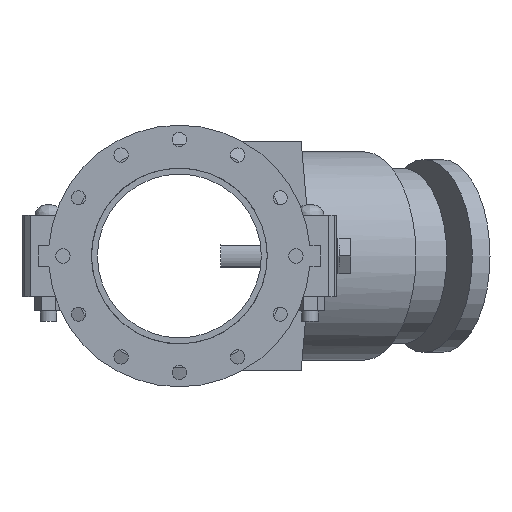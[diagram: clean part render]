
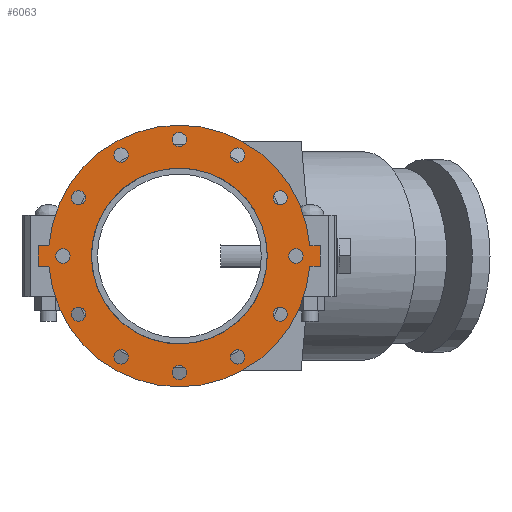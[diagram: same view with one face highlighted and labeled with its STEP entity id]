
A CAD part, front view. The second image highlights one B-rep face of the part: STEP entity #6063.
In plain terms, the highlighted planar face has unit normal (0, -1, 0) as drawn and (0, 0, 1) by its records, which use the part's own axes.
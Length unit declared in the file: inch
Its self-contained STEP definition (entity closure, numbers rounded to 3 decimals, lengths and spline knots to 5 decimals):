
#161=FACE_BOUND('',#812,.T.);
#162=FACE_BOUND('',#813,.T.);
#163=FACE_BOUND('',#814,.T.);
#164=FACE_BOUND('',#815,.T.);
#165=FACE_BOUND('',#816,.T.);
#166=FACE_BOUND('',#817,.T.);
#167=FACE_BOUND('',#818,.T.);
#168=FACE_BOUND('',#819,.T.);
#169=FACE_BOUND('',#820,.T.);
#170=FACE_BOUND('',#821,.T.);
#171=FACE_BOUND('',#822,.T.);
#172=FACE_BOUND('',#823,.T.);
#173=FACE_BOUND('',#824,.T.);
#246=PLANE('',#6641);
#462=FACE_OUTER_BOUND('',#811,.T.);
#811=EDGE_LOOP('',(#3991,#3992,#3993,#3994,#3995,#3996,#3997,#3998));
#812=EDGE_LOOP('',(#3999));
#813=EDGE_LOOP('',(#4000));
#814=EDGE_LOOP('',(#4001));
#815=EDGE_LOOP('',(#4002));
#816=EDGE_LOOP('',(#4003));
#817=EDGE_LOOP('',(#4004));
#818=EDGE_LOOP('',(#4005));
#819=EDGE_LOOP('',(#4006));
#820=EDGE_LOOP('',(#4007));
#821=EDGE_LOOP('',(#4008));
#822=EDGE_LOOP('',(#4009));
#823=EDGE_LOOP('',(#4010));
#824=EDGE_LOOP('',(#4011,#4012));
#1227=LINE('',#9326,#1671);
#1228=LINE('',#9329,#1672);
#1231=LINE('',#9334,#1675);
#1232=LINE('',#9337,#1676);
#1234=LINE('',#9340,#1678);
#1235=LINE('',#9342,#1679);
#1671=VECTOR('',#7438,0.3937);
#1672=VECTOR('',#7441,0.3937);
#1675=VECTOR('',#7446,0.3937);
#1676=VECTOR('',#7449,0.3937);
#1678=VECTOR('',#7453,0.3937);
#1679=VECTOR('',#7456,0.3937);
#2091=CIRCLE('',#6588,0.4375);
#2093=CIRCLE('',#6591,0.4375);
#2095=CIRCLE('',#6594,0.4375);
#2097=CIRCLE('',#6597,0.4375);
#2099=CIRCLE('',#6600,0.4375);
#2101=CIRCLE('',#6603,0.4375);
#2103=CIRCLE('',#6606,0.4375);
#2105=CIRCLE('',#6609,0.4375);
#2107=CIRCLE('',#6612,0.4375);
#2109=CIRCLE('',#6615,0.4375);
#2111=CIRCLE('',#6618,0.4375);
#2113=CIRCLE('',#6621,0.4375);
#2119=CIRCLE('',#6629,8.);
#2120=CIRCLE('',#6631,5.375);
#2121=CIRCLE('',#6632,5.375);
#2122=CIRCLE('',#6634,8.);
#2448=VERTEX_POINT('',#9213);
#2450=VERTEX_POINT('',#9219);
#2452=VERTEX_POINT('',#9225);
#2454=VERTEX_POINT('',#9231);
#2456=VERTEX_POINT('',#9237);
#2458=VERTEX_POINT('',#9243);
#2460=VERTEX_POINT('',#9249);
#2462=VERTEX_POINT('',#9255);
#2464=VERTEX_POINT('',#9261);
#2466=VERTEX_POINT('',#9267);
#2468=VERTEX_POINT('',#9273);
#2470=VERTEX_POINT('',#9279);
#2482=VERTEX_POINT('',#9306);
#2483=VERTEX_POINT('',#9308);
#2484=VERTEX_POINT('',#9312);
#2485=VERTEX_POINT('',#9314);
#2486=VERTEX_POINT('',#9318);
#2487=VERTEX_POINT('',#9320);
#2488=VERTEX_POINT('',#9324);
#2489=VERTEX_POINT('',#9328);
#2490=VERTEX_POINT('',#9332);
#2491=VERTEX_POINT('',#9336);
#3033=EDGE_CURVE('',#2448,#2448,#2091,.T.);
#3036=EDGE_CURVE('',#2450,#2450,#2093,.T.);
#3039=EDGE_CURVE('',#2452,#2452,#2095,.T.);
#3042=EDGE_CURVE('',#2454,#2454,#2097,.T.);
#3045=EDGE_CURVE('',#2456,#2456,#2099,.T.);
#3048=EDGE_CURVE('',#2458,#2458,#2101,.T.);
#3051=EDGE_CURVE('',#2460,#2460,#2103,.T.);
#3054=EDGE_CURVE('',#2462,#2462,#2105,.T.);
#3057=EDGE_CURVE('',#2464,#2464,#2107,.T.);
#3060=EDGE_CURVE('',#2466,#2466,#2109,.T.);
#3063=EDGE_CURVE('',#2468,#2468,#2111,.T.);
#3066=EDGE_CURVE('',#2470,#2470,#2113,.T.);
#3081=EDGE_CURVE('',#2482,#2483,#2119,.T.);
#3083=EDGE_CURVE('',#2485,#2484,#2120,.T.);
#3084=EDGE_CURVE('',#2484,#2485,#2121,.T.);
#3086=EDGE_CURVE('',#2487,#2486,#2122,.T.);
#3089=EDGE_CURVE('',#2483,#2488,#1227,.T.);
#3090=EDGE_CURVE('',#2489,#2487,#1228,.T.);
#3093=EDGE_CURVE('',#2486,#2490,#1231,.T.);
#3094=EDGE_CURVE('',#2491,#2482,#1232,.T.);
#3096=EDGE_CURVE('',#2490,#2491,#1234,.T.);
#3097=EDGE_CURVE('',#2488,#2489,#1235,.T.);
#3991=ORIENTED_EDGE('',*,*,#3093,.T.);
#3992=ORIENTED_EDGE('',*,*,#3096,.T.);
#3993=ORIENTED_EDGE('',*,*,#3094,.T.);
#3994=ORIENTED_EDGE('',*,*,#3081,.T.);
#3995=ORIENTED_EDGE('',*,*,#3089,.T.);
#3996=ORIENTED_EDGE('',*,*,#3097,.T.);
#3997=ORIENTED_EDGE('',*,*,#3090,.T.);
#3998=ORIENTED_EDGE('',*,*,#3086,.T.);
#3999=ORIENTED_EDGE('',*,*,#3033,.T.);
#4000=ORIENTED_EDGE('',*,*,#3036,.T.);
#4001=ORIENTED_EDGE('',*,*,#3039,.T.);
#4002=ORIENTED_EDGE('',*,*,#3042,.T.);
#4003=ORIENTED_EDGE('',*,*,#3045,.T.);
#4004=ORIENTED_EDGE('',*,*,#3048,.T.);
#4005=ORIENTED_EDGE('',*,*,#3051,.T.);
#4006=ORIENTED_EDGE('',*,*,#3054,.T.);
#4007=ORIENTED_EDGE('',*,*,#3057,.T.);
#4008=ORIENTED_EDGE('',*,*,#3060,.T.);
#4009=ORIENTED_EDGE('',*,*,#3063,.T.);
#4010=ORIENTED_EDGE('',*,*,#3066,.T.);
#4011=ORIENTED_EDGE('',*,*,#3083,.T.);
#4012=ORIENTED_EDGE('',*,*,#3084,.T.);
#6063=ADVANCED_FACE('',(#462,#161,#162,#163,#164,#165,#166,#167,#168,#169,
#170,#171,#172,#173),#246,.T.);
#6588=AXIS2_PLACEMENT_3D('',#9214,#7318,#7319);
#6591=AXIS2_PLACEMENT_3D('',#9220,#7325,#7326);
#6594=AXIS2_PLACEMENT_3D('',#9226,#7332,#7333);
#6597=AXIS2_PLACEMENT_3D('',#9232,#7339,#7340);
#6600=AXIS2_PLACEMENT_3D('',#9238,#7346,#7347);
#6603=AXIS2_PLACEMENT_3D('',#9244,#7353,#7354);
#6606=AXIS2_PLACEMENT_3D('',#9250,#7360,#7361);
#6609=AXIS2_PLACEMENT_3D('',#9256,#7367,#7368);
#6612=AXIS2_PLACEMENT_3D('',#9262,#7374,#7375);
#6615=AXIS2_PLACEMENT_3D('',#9268,#7381,#7382);
#6618=AXIS2_PLACEMENT_3D('',#9274,#7388,#7389);
#6621=AXIS2_PLACEMENT_3D('',#9280,#7395,#7396);
#6629=AXIS2_PLACEMENT_3D('',#9310,#7420,#7421);
#6631=AXIS2_PLACEMENT_3D('',#9315,#7425,#7426);
#6632=AXIS2_PLACEMENT_3D('',#9316,#7427,#7428);
#6634=AXIS2_PLACEMENT_3D('',#9321,#7432,#7433);
#6641=AXIS2_PLACEMENT_3D('',#9343,#7457,#7458);
#7318=DIRECTION('center_axis',(0.,0.,-1.));
#7319=DIRECTION('ref_axis',(-0.866,0.5,0.));
#7325=DIRECTION('center_axis',(0.,0.,-1.));
#7326=DIRECTION('ref_axis',(-0.5,0.866,0.));
#7332=DIRECTION('center_axis',(0.,0.,-1.));
#7333=DIRECTION('ref_axis',(0.,1.,0.));
#7339=DIRECTION('center_axis',(0.,0.,-1.));
#7340=DIRECTION('ref_axis',(0.5,0.866,0.));
#7346=DIRECTION('center_axis',(0.,0.,-1.));
#7347=DIRECTION('ref_axis',(0.866,0.5,0.));
#7353=DIRECTION('center_axis',(0.,0.,-1.));
#7354=DIRECTION('ref_axis',(1.,0.,0.));
#7360=DIRECTION('center_axis',(0.,0.,-1.));
#7361=DIRECTION('ref_axis',(0.866,-0.5,0.));
#7367=DIRECTION('center_axis',(0.,0.,-1.));
#7368=DIRECTION('ref_axis',(0.5,-0.866,0.));
#7374=DIRECTION('center_axis',(0.,0.,-1.));
#7375=DIRECTION('ref_axis',(0.,-1.,0.));
#7381=DIRECTION('center_axis',(0.,0.,-1.));
#7382=DIRECTION('ref_axis',(-0.5,-0.866,0.));
#7388=DIRECTION('center_axis',(0.,0.,-1.));
#7389=DIRECTION('ref_axis',(-0.866,-0.5,0.));
#7395=DIRECTION('center_axis',(0.,0.,-1.));
#7396=DIRECTION('ref_axis',(-1.,0.,0.));
#7420=DIRECTION('center_axis',(0.,0.,1.));
#7421=DIRECTION('ref_axis',(-1.,0.,0.));
#7425=DIRECTION('center_axis',(0.,0.,-1.));
#7426=DIRECTION('ref_axis',(-1.,0.,0.));
#7427=DIRECTION('center_axis',(0.,0.,-1.));
#7428=DIRECTION('ref_axis',(-1.,0.,0.));
#7432=DIRECTION('center_axis',(0.,0.,1.));
#7433=DIRECTION('ref_axis',(-1.,0.,0.));
#7438=DIRECTION('',(0.,1.,0.));
#7441=DIRECTION('',(0.,-1.,0.));
#7446=DIRECTION('',(0.,-1.,0.));
#7449=DIRECTION('',(0.,1.,0.));
#7453=DIRECTION('',(1.,0.,0.));
#7456=DIRECTION('',(-1.,0.,0.));
#7457=DIRECTION('center_axis',(0.,0.,1.));
#7458=DIRECTION('ref_axis',(1.,0.,0.));
#9213=CARTESIAN_POINT('',(-5.79154,3.34375,0.625));
#9214=CARTESIAN_POINT('Origin',(-6.17043,3.5625,0.625));
#9219=CARTESIAN_POINT('',(-3.34375,5.79154,0.625));
#9220=CARTESIAN_POINT('Origin',(-3.5625,6.17043,0.625));
#9225=CARTESIAN_POINT('',(0.,6.6875,0.625));
#9226=CARTESIAN_POINT('Origin',(0.,7.125,0.625));
#9231=CARTESIAN_POINT('',(3.34375,5.79154,0.625));
#9232=CARTESIAN_POINT('Origin',(3.5625,6.17043,0.625));
#9237=CARTESIAN_POINT('',(5.79154,3.34375,0.625));
#9238=CARTESIAN_POINT('Origin',(6.17043,3.5625,0.625));
#9243=CARTESIAN_POINT('',(6.6875,0.,0.625));
#9244=CARTESIAN_POINT('Origin',(7.125,0.,0.625));
#9249=CARTESIAN_POINT('',(5.79154,-3.34375,0.625));
#9250=CARTESIAN_POINT('Origin',(6.17043,-3.5625,0.625));
#9255=CARTESIAN_POINT('',(3.34375,-5.79154,0.625));
#9256=CARTESIAN_POINT('Origin',(3.5625,-6.17043,0.625));
#9261=CARTESIAN_POINT('',(0.,-6.6875,0.625));
#9262=CARTESIAN_POINT('Origin',(0.,-7.125,0.625));
#9267=CARTESIAN_POINT('',(-3.34375,-5.79154,0.625));
#9268=CARTESIAN_POINT('Origin',(-3.5625,-6.17043,0.625));
#9273=CARTESIAN_POINT('',(-5.79154,-3.34375,0.625));
#9274=CARTESIAN_POINT('Origin',(-6.17043,-3.5625,0.625));
#9279=CARTESIAN_POINT('',(-6.6875,0.,0.625));
#9280=CARTESIAN_POINT('Origin',(-7.125,0.,0.625));
#9306=CARTESIAN_POINT('',(0.625,-7.97555,0.625));
#9308=CARTESIAN_POINT('',(0.625,7.97555,0.625));
#9310=CARTESIAN_POINT('Origin',(0.,0.,0.625));
#9312=CARTESIAN_POINT('',(5.375,0.,0.625));
#9314=CARTESIAN_POINT('',(0.625,5.33854,0.625));
#9315=CARTESIAN_POINT('Origin',(0.,0.,0.625));
#9316=CARTESIAN_POINT('Origin',(0.,0.,0.625));
#9318=CARTESIAN_POINT('',(-0.625,-7.97555,0.625));
#9320=CARTESIAN_POINT('',(-0.625,7.97555,0.625));
#9321=CARTESIAN_POINT('Origin',(0.,0.,0.625));
#9324=CARTESIAN_POINT('',(0.625,8.625,0.625));
#9326=CARTESIAN_POINT('',(0.625,8.625,0.625));
#9328=CARTESIAN_POINT('',(-0.625,8.625,0.625));
#9329=CARTESIAN_POINT('',(-0.625,-8.625,0.625));
#9332=CARTESIAN_POINT('',(-0.625,-8.625,0.625));
#9334=CARTESIAN_POINT('',(-0.625,-8.625,0.625));
#9336=CARTESIAN_POINT('',(0.625,-8.625,0.625));
#9337=CARTESIAN_POINT('',(0.625,8.625,0.625));
#9340=CARTESIAN_POINT('',(0.625,-8.625,0.625));
#9342=CARTESIAN_POINT('',(-0.625,8.625,0.625));
#9343=CARTESIAN_POINT('Origin',(0.,0.,0.625));
